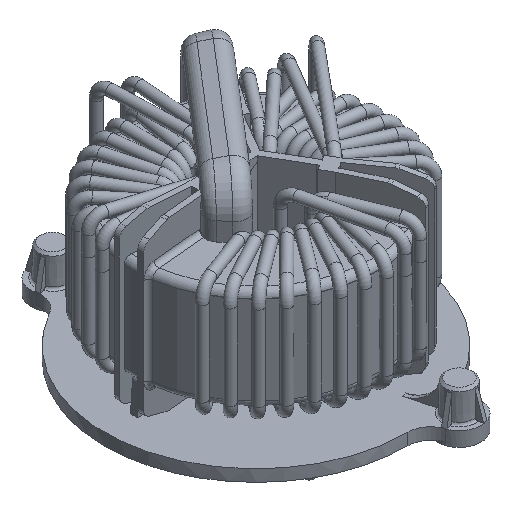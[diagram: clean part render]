
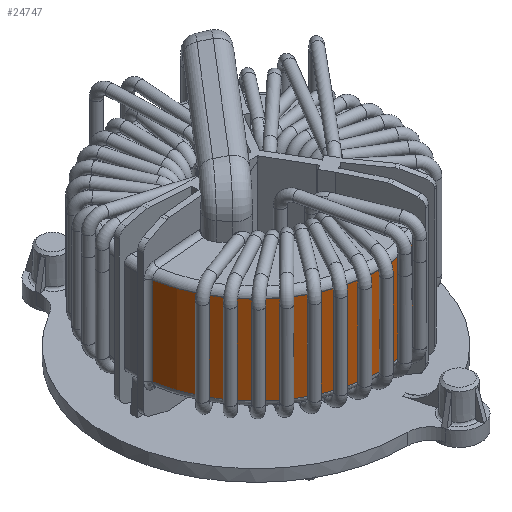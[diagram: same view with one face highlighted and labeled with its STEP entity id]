
A CAD part, isometric view. The second image highlights one B-rep face of the part: STEP entity #24747.
In plain terms, the highlighted cylindrical face has radius 27.45 mm (diameter 54.9 mm), a partial arc.
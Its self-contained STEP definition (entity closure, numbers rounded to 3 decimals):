
#24582=CARTESIAN_POINT('',(10.19,-25.489,21.));
#24583=VERTEX_POINT('',#24582);
#24609=CARTESIAN_POINT('',(10.19,-25.489,1.5));
#24610=VERTEX_POINT('',#24609);
#24620=CARTESIAN_POINT('',(10.19,-25.489,21.));
#24621=DIRECTION('',(0.0,0.0,-1.0));
#24622=VECTOR('',#24621,19.5);
#24623=LINE('',#24620,#24622);
#24624=EDGE_CURVE('',#24583,#24610,#24623,.T.);
#24683=CARTESIAN_POINT('',(-27.116,-4.267,1.5));
#24684=VERTEX_POINT('',#24683);
#24685=CARTESIAN_POINT('',(0.,0.,1.5));
#24686=DIRECTION('',(0.,0.,-1.));
#24687=DIRECTION('',(-0.494,-0.869,0.));
#24688=AXIS2_PLACEMENT_3D('',#24685,#24686,#24687);
#24689=CIRCLE('',#24688,27.45);
#24690=EDGE_CURVE('',#24610,#24684,#24689,.T.);
#24723=CARTESIAN_POINT('',(0.,0.,11.25));
#24724=DIRECTION('',(0.,0.,1.));
#24725=DIRECTION('',(-1.,-0.006,0.));
#24726=AXIS2_PLACEMENT_3D('',#24723,#24724,#24725);
#24727=CYLINDRICAL_SURFACE('',#24726,27.45);
#24728=ORIENTED_EDGE('',*,*,#24624,.F.);
#24729=CARTESIAN_POINT('',(-27.116,-4.267,21.));
#24730=VERTEX_POINT('',#24729);
#24731=CARTESIAN_POINT('',(0.,0.,21.));
#24732=DIRECTION('',(0.,0.,1.));
#24733=DIRECTION('',(-0.494,-0.869,0.));
#24734=AXIS2_PLACEMENT_3D('',#24731,#24732,#24733);
#24735=CIRCLE('',#24734,27.45);
#24736=EDGE_CURVE('',#24730,#24583,#24735,.T.);
#24737=ORIENTED_EDGE('',*,*,#24736,.F.);
#24738=CARTESIAN_POINT('',(-27.116,-4.267,1.5));
#24739=DIRECTION('',(0.0,0.0,1.0));
#24740=VECTOR('',#24739,19.5);
#24741=LINE('',#24738,#24740);
#24742=EDGE_CURVE('',#24684,#24730,#24741,.T.);
#24743=ORIENTED_EDGE('',*,*,#24742,.F.);
#24744=ORIENTED_EDGE('',*,*,#24690,.F.);
#24745=EDGE_LOOP('',(#24728,#24737,#24743,#24744));
#24746=FACE_OUTER_BOUND('',#24745,.T.);
#24747=ADVANCED_FACE('',(#24746),#24727,.T.);
